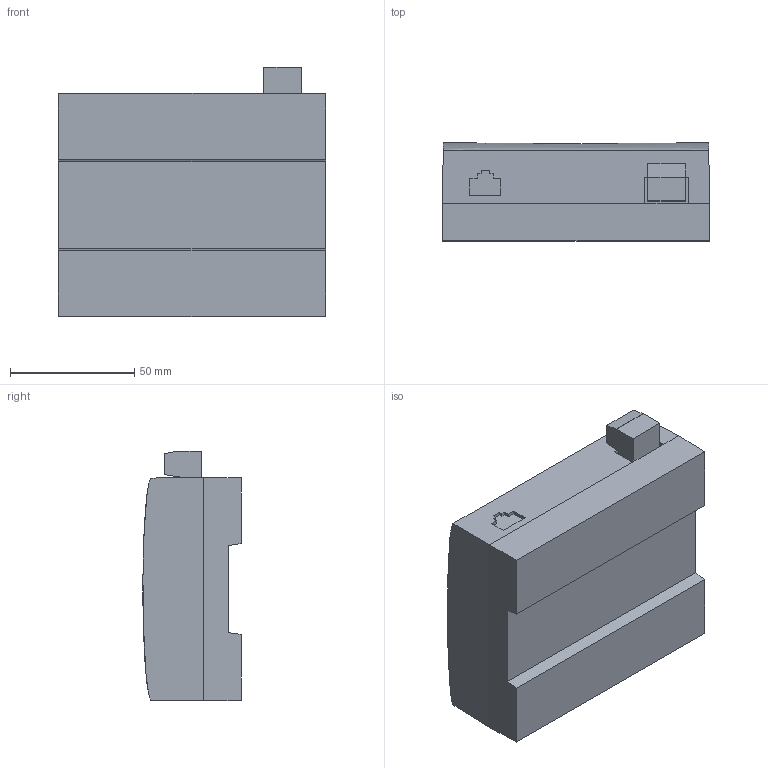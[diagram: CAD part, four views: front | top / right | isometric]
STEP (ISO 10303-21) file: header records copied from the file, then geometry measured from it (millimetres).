
FILE_DESCRIPTION(/* description */ ('STEP AP242','CAx-IF Rec.Pracs.---Representation and Presentation of Product Manufacturing Information (PMI)---4.0---2014-10-13','CAx-IF Rec.Pracs.---3D Tessellated Geometry---0.4---2014-09-14','2;1'),/* implementation_level */ '2;1');
FILE_NAME(/* name */ '6634ec2d7859092b1b9c497c',/* time_stamp */ '2024-05-03T13:52:46Z',/* author */ (''),/* organization */ (''),/* preprocessor_version */ 'ST-DEVELOPER v20',/* originating_system */ ' ',/* authorisation */ ' ');
FILE_SCHEMA (('AP242_MANAGED_MODEL_BASED_3D_ENGINEERING_MIM_LF { 1 0 10303 442 1 1 4 }'));
Length unit declared in the file: metre
Products named in the file (3): DIN_abs; 5PinGreen; XPC
Assembly tree (2 placements, depth 2):
  DIN_abs
    5PinGreen
    XPC
Bounding box: 107.5 x 39.5 x 100.5 mm (x, y, z)
Volume: 353878.1 mm3; surface area: 35999.2 mm2
Topology: 2 solids, 2 shells, 110 faces, 273 edges, 180 vertices
Faces by surface type: plane 93, bspline 9, cylinder 8
Full cylindrical faces by diameter (mm): 2.3 x8
Entity records: 3450 total; most frequent: CARTESIAN_POINT 855, ORIENTED_EDGE 530, DIRECTION 455, EDGE_CURVE 265, LINE 247, VECTOR 247, VERTEX_POINT 180, EDGE_LOOP 131
